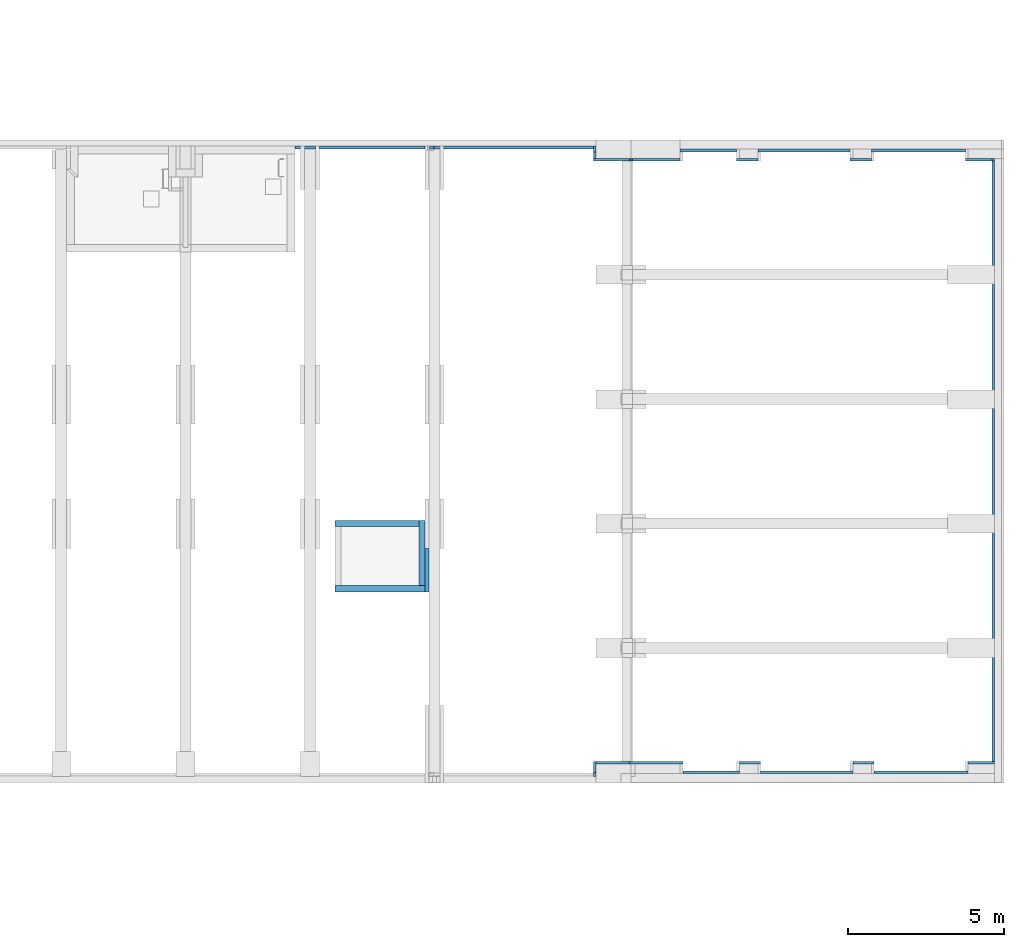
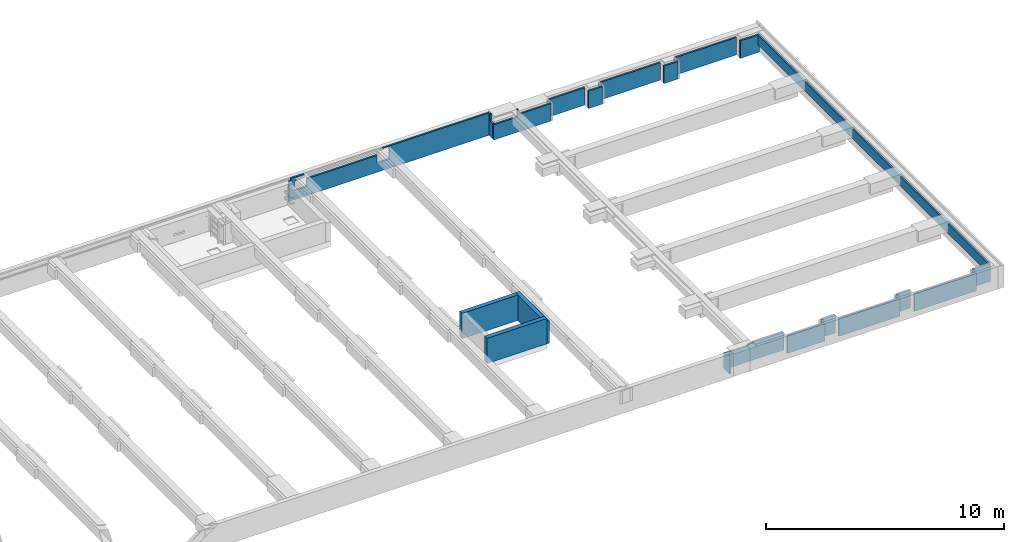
# One storey, part 14 of 17: 22 walls.
"""IFC2X3 building model written with IfcOpenShell, lengths in millimetres."""

from ifc_helpers import new_model, entity, si_unit, converted_unit, derived_unit, money_unit, direction, frame, origin_with_axes, place, context, subcontext, project, spatial, faceted_brep, material, type_object, element, save


model = new_model("IFC2X3")

# Units and contexts
model_context = context("Model", 3, precision=0.01, world=origin_with_axes(), true_north=direction((0.0, 1.0)))
body_context = subcontext(model_context, "Body", "Model", "MODEL_VIEW")
ifc_project = project(units=[si_unit("LENGTHUNIT", "METRE", prefix="MILLI"), si_unit("AREAUNIT", "SQUARE_METRE"), si_unit("VOLUMEUNIT", "CUBIC_METRE"), converted_unit("PLANEANGLEUNIT", "DEGREE", entity("IfcPlaneAngleMeasure", 0.0174532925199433), si_unit("PLANEANGLEUNIT", "RADIAN"), dimensions=[0, 0, 0, 0, 0, 0, 0]), money_unit("EUR"), converted_unit("TIMEUNIT", "Year", entity("IfcTimeMeasure", 31557600.0), si_unit("TIMEUNIT", "SECOND"), dimensions=[0, 0, 1, 0, 0, 0, 0]), si_unit("MASSUNIT", "GRAM", prefix="KILO"), si_unit("THERMODYNAMICTEMPERATUREUNIT", "DEGREE_CELSIUS"), si_unit("LUMINOUSINTENSITYUNIT", "LUMEN"), si_unit("ENERGYUNIT", "JOULE", prefix="MEGA"), derived_unit("THERMALCONDUCTANCEUNIT", [(si_unit("POWERUNIT", "WATT"), 1), (si_unit("LENGTHUNIT", "METRE"), -1), (si_unit("THERMODYNAMICTEMPERATUREUNIT", "KELVIN"), -1)]), derived_unit("SPECIFICHEATCAPACITYUNIT", [(si_unit("ENERGYUNIT", "JOULE"), 1), (si_unit("MASSUNIT", "GRAM", prefix="KILO"), -1), (si_unit("THERMODYNAMICTEMPERATUREUNIT", "KELVIN"), -1)]), derived_unit("MASSDENSITYUNIT", [(si_unit("MASSUNIT", "GRAM", prefix="KILO"), 1), (si_unit("VOLUMEUNIT", "CUBIC_METRE"), -1)])], contexts=[model_context])

# Site, building, storey
site_placement = place(None, origin_with_axes())
site = spatial("IfcSite", under=ifc_project, at=site_placement, Name="<site naam>", CompositionType="ELEMENT")
building_placement = place(site_placement, origin_with_axes())
building = spatial("IfcBuilding", under=site, at=building_placement, Name="<Naam gebouw>", CompositionType="ELEMENT")
storey_placement = place(building_placement, frame((0.0, 0.0, -1100.0), z_axis=(0.0, 0.0, 1.0), x_axis=(1.0, 0.0, 0.0)))
storey = spatial("IfcBuildingStorey", under=building, at=storey_placement, Name="-1 Fundering", CompositionType="ELEMENT", Elevation=-1100.0)

# Walls
ifc_material_1 = material(Name="ALG - ISOLATIE")
wall_type_1 = type_object("IfcWallType", Name="ALG - ISOLATIE 85", PredefinedType="NOTDEFINED")
wall_1_placement = place(storey_placement, frame((57199.92408730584, -135.0000144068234, -50.00000000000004), z_axis=(0.0, 0.0, 1.0), x_axis=(0.0001897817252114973, 0.9999999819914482, 0.0)))
element("IfcWall", 1, at=wall_1_placement, inside=storey, type_object=wall_type_1, material=ifc_material_1, Name="21_Binnenwand_ALG", context=body_context, shape_type="Brep", body=[
    faceted_brep([(134.9904842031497, 84.99999999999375, 900.0000000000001), (135.0066156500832, 0.0, 900.0000000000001), (135.0066156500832, 0.0, 815.0000000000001), (134.9904842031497, 84.99999999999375, 815.0000000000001), (10.00001458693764, 0.0, 900.0000000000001), (9.98388314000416, 84.99999999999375, 900.0000000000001), (10.00001458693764, 0.0, 1150.0), (0.0, 0.0, 1150.0), (0.0, 0.0, 0.0), (485.0000231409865, 0.0, 0.0), (485.0000231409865, 0.0, 815.0000000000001), (484.983891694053, 84.99999999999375, 815.0000000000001), (484.983891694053, 84.99999999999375, 0.0), (0.0, 84.99999999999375, 0.0), (0.0, 84.99999999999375, 1150.0), (9.98388314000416, 84.99999999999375, 1150.0)], [[[0, 1, 2, 3]], [[4, 1, 0, 5]], [[4, 6, 7, 8, 9, 10, 2, 1]], [[11, 3, 2, 10]], [[5, 0, 3, 11, 12, 13, 14, 15]], [[15, 6, 4, 5]], [[6, 15, 14, 7]], [[8, 7, 14, 13]], [[8, 13, 12, 9]], [[9, 12, 11, 10]]]),
])
wall_2_placement = place(storey_placement, frame((57200.00000000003, 265.0000000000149, -50.00000000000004), z_axis=(0.0, 0.0, 1.0), x_axis=(1.0, 0.0, 0.0)))
element("IfcWall", 2, at=wall_2_placement, inside=storey, type_object=wall_type_1, material=ifc_material_1, Name="21_Binnenwand_ALG", context=body_context, shape_type="Brep", body=[
    faceted_brep([(1067.782970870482, 85.00000000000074, 900.0000000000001), (1175.000000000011, 85.00000000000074, 900.0000000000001), (2785.000000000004, 85.00000000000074, 900.0000000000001), (2785.000000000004, 85.00000000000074, 0.0), (0.01613144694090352, 85.00000000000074, 0.0), (0.01613144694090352, 85.00000000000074, 815.0000000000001), (1067.782970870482, 85.00000000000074, 815.0000000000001), (1175.000000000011, 0.0, 900.0000000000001), (1067.782970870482, 0.0, 900.0000000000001), (2785.000000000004, 0.0, 900.0000000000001), (2785.000000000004, 0.0, 0.0), (0.0, 0.0, 0.0), (0.0, 0.0, 815.0000000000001), (1067.782970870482, 0.0, 815.0000000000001)], [[[0, 1, 2, 3, 4, 5, 6]], [[7, 1, 0, 8]], [[1, 7, 9, 2]], [[2, 9, 10, 3]], [[3, 10, 11, 4]], [[12, 5, 4, 11]], [[6, 5, 12, 13]], [[8, 0, 6, 13]], [[7, 8, 13, 12, 11, 10, 9]]]),
])
wall_3_placement = place(storey_placement, frame((59900.00000000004, -34.99999999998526, -50.00000000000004), z_axis=(0.0, 0.0, 1.0), x_axis=(1.0, 0.0, 0.0)))
element("IfcWall", 3, at=wall_3_placement, inside=storey, type_object=wall_type_1, material=ifc_material_1, Name="21_Binnenwand_ALG", context=body_context, shape_type="Brep", body=[
    faceted_brep([(1899.999983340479, 85.00000000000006, 0.0), (85.00000000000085, 85.00000000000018, 0.0), (85.00000000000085, 85.00000000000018, 900.0000000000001), (1899.999983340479, 85.00000000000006, 900.0000000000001), (85.00000000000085, 0.0, 0.0), (1899.999976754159, 0.0, 0.0), (85.00000000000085, 0.0, 900.0000000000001), (1899.999976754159, 0.0, 900.0000000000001)], [[[0, 1, 2, 3]], [[4, 1, 0, 5]], [[1, 4, 6, 2]], [[2, 6, 7, 3]], [[5, 0, 3, 7]], [[4, 5, 7, 6]]]),
])
wall_4_placement = place(storey_placement, frame((61800.00000000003, 265.0000000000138, -50.00000000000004), z_axis=(0.0, 0.0, 1.0), x_axis=(1.0, 0.0, 0.0)))
element("IfcWall", 4, at=wall_4_placement, inside=storey, type_object=wall_type_1, material=ifc_material_1, Name="21_Binnenwand_ALG", context=body_context, shape_type="Brep", body=[
    faceted_brep([(684.999978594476, 85.00000000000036, 0.0), (6.586319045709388e-06, 85.00000000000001, 0.0), (6.586319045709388e-06, 85.00000000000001, 900.0000000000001), (684.999978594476, 85.00000000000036, 900.0000000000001), (0.0, 0.0, 0.0), (685.0000000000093, 0.0, 0.0), (0.0, 0.0, 900.0000000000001), (685.0000000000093, 0.0, 900.0000000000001)], [[[0, 1, 2, 3]], [[4, 1, 0, 5]], [[1, 4, 6, 2]], [[2, 6, 7, 3]], [[5, 0, 3, 7]], [[4, 5, 7, 6]]]),
])
wall_5_placement = place(storey_placement, frame((62400.00007554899, -34.9999999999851, -50.00000000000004), z_axis=(0.0, 0.0, 1.0), x_axis=(1.0, -9.233843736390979e-09, 0.0)))
element("IfcWall", 5, at=wall_5_placement, inside=storey, type_object=wall_type_1, material=ifc_material_1, Name="21_Binnenwand_ALG", context=body_context, shape_type="Brep", body=[
    faceted_brep([(3049.999923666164, 85.00002816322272, 0.0), (84.9999778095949, 85.00000078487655, 0.0), (84.9999778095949, 85.00000078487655, 900.0000000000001), (3049.999923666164, 85.00002816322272, 900.0000000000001), (85.00000000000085, 7.84875879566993e-07, 0.0), (3049.999924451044, 2.81632236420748e-05, 0.0), (85.00000000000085, 7.84875879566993e-07, 900.0000000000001), (3049.999924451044, 2.816322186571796e-05, 900.0000000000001)], [[[0, 1, 2, 3]], [[4, 1, 0, 5]], [[1, 4, 6, 2]], [[2, 6, 7, 3]], [[5, 0, 3, 7]], [[4, 5, 7, 6]]]),
])
wall_6_placement = place(storey_placement, frame((65450.00000000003, 265.000000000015, -50.00000000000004), z_axis=(0.0, 0.0, 1.0), x_axis=(1.0, 0.0, 0.0)))
element("IfcWall", 6, at=wall_6_placement, inside=storey, type_object=wall_type_1, material=ifc_material_1, Name="21_Binnenwand_ALG", context=body_context, shape_type="Brep", body=[
    faceted_brep([(685.0000000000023, 85.00000000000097, 0.0), (0.0, 85.00000000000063, 0.0), (0.0, 85.00000000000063, 900.0000000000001), (685.0000000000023, 85.00000000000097, 900.0000000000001), (0.0, 0.0, 0.0), (685.0000000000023, 0.0, 0.0), (0.0, 0.0, 900.0000000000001), (685.0000000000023, 0.0, 900.0000000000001)], [[[0, 1, 2, 3]], [[4, 1, 0, 5]], [[1, 4, 6, 2]], [[2, 6, 7, 3]], [[5, 0, 3, 7]], [[4, 5, 7, 6]]]),
])
wall_7_placement = place(storey_placement, frame((66050.00000000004, -35.00002816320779, -50.00000000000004), z_axis=(0.0, 0.0, 1.0), x_axis=(1.0, 9.084910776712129e-09, 0.0)))
element("IfcWall", 7, at=wall_7_placement, inside=storey, type_object=wall_type_1, material=ifc_material_1, Name="21_Binnenwand_ALG", context=body_context, shape_type="Brep", body=[
    faceted_brep([(3099.999977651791, 84.99997183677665, 0.0), (85.00000077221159, 84.99999922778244, 0.0), (85.00000077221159, 84.99999922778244, 900.0000000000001), (3099.999977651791, 84.99997183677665, 900.0000000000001), (84.99999999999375, -7.722166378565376e-07, 0.0), (3099.999967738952, -2.816322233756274e-05, 0.0), (84.99999999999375, 2.73910044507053e-05, 900.0000000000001), (3099.999967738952, 0.0, 900.0000000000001)], [[[0, 1, 2, 3]], [[4, 1, 0, 5]], [[1, 4, 6, 2]], [[2, 6, 7, 3]], [[5, 0, 3, 7]], [[4, 5, 7, 6]]]),
])
wall_8_placement = place(storey_placement, frame((69150.00000000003, 265.0000000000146, -50.00000000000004), z_axis=(0.0, 0.0, 1.0), x_axis=(1.0, 0.0, 0.0)))
element("IfcWall", 8, at=wall_8_placement, inside=storey, type_object=wall_type_1, material=ifc_material_1, Name="21_Binnenwand_ALG", context=body_context, shape_type="Brep", body=[
    faceted_brep([(859.9999999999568, 84.99999999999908, 0.0), (9.140634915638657e-06, 84.9999999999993, 0.0), (9.140634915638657e-06, 84.9999999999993, 900.0000000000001), (859.999999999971, 84.99999999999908, 900.0000000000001), (859.9999999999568, 84.99999999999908, 399.9999928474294), (859.9999999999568, 0.0, 0.0), (0.0, 0.0, 0.0), (0.0, 0.0, 900.0000000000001), (859.999999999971, 0.0, 900.0000000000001), (859.9999999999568, 0.0, 399.9999928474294)], [[[0, 1, 2, 3, 4]], [[5, 6, 1, 0]], [[1, 6, 7, 2]], [[2, 7, 8, 3]], [[9, 4, 3, 8]], [[4, 9, 5, 0]], [[5, 9, 8, 7, 6]]]),
])
wall_9_placement = place(storey_placement, frame((70009.99999999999, 265.0000000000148, 349.9999928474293), z_axis=(0.0, 0.0, 1.0), x_axis=(0.0, 1.0, 0.0)))
element("IfcWall", 9, at=wall_9_placement, inside=storey, type_object=wall_type_1, material=ifc_material_1, Name="21_Binnenwand_ALG", context=body_context, shape_type="Brep", body=[
    faceted_brep([(19470.0, 0.0, 0.0), (19470.0, 84.99999999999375, 0.0), (19470.0, 84.99999999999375, 500.0000071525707), (19470.0, 0.0, 500.0000071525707), (85.00000000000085, 0.0, 0.0), (85.00000000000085, 84.99999999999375, 0.0), (85.00000000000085, 84.99999999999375, 500.0000071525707), (85.00000000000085, 0.0, 500.0000071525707)], [[[0, 1, 2, 3]], [[4, 5, 1, 0]], [[1, 5, 6, 2]], [[2, 6, 7, 3]], [[4, 0, 3, 7]], [[5, 4, 7, 6]]]),
])
wall_10_placement = place(storey_placement, frame((70009.99999999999, 19735.00000000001, -50.00000000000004), z_axis=(0.0, 0.0, 1.0), x_axis=(-1.0, 0.0, 0.0)))
element("IfcWall", 10, at=wall_10_placement, inside=storey, type_object=wall_type_1, material=ifc_material_1, Name="21_Binnenwand_ALG", context=body_context, shape_type="Brep", body=[
    faceted_brep([(0.0, 0.0, 0.0), (944.9999999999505, 0.0, 0.0), (944.9999999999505, 0.0, 900.0000000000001), (84.99999999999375, 0.0, 900.0000000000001), (84.99999999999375, 0.0, 399.9999928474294), (0.0, 0.0, 399.9999928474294), (0.0, 85.00000000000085, 0.0), (944.9999956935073, 85.00000000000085, 0.0), (944.9999956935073, 85.00000000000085, 900.0000000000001), (84.99999999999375, 85.00000000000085, 900.0000000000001), (84.99999999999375, 85.00000000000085, 399.9999928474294), (0.0, 85.00000000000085, 399.9999928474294)], [[[0, 1, 2, 3, 4, 5]], [[0, 6, 7, 1]], [[1, 7, 8, 2]], [[2, 8, 9, 3]], [[10, 4, 3, 9]], [[5, 4, 10, 11]], [[11, 6, 0, 5]], [[11, 10, 9, 8, 7, 6]]]),
])
wall_11_placement = place(storey_placement, frame((69149.99998480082, 20035.00000000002, -50.00000000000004), z_axis=(0.0, 0.0, 1.0), x_axis=(-1.0, 0.0, 0.0)))
element("IfcWall", 11, at=wall_11_placement, inside=storey, type_object=wall_type_1, material=ifc_material_1, Name="21_Binnenwand_ALG", context=body_context, shape_type="Brep", body=[
    faceted_brep([(84.99999999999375, 0.0, 0.0), (3099.999864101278, 0.0, 0.0), (3099.999864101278, 0.0, 900.0000000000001), (84.99999999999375, 0.0, 900.0000000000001), (84.99999569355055, 85.00000000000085, 0.0), (3099.999898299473, 85.00000000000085, 0.0), (3099.999898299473, 85.00000000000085, 900.0000000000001), (84.99999569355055, 85.00000000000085, 900.0000000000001)], [[[0, 1, 2, 3]], [[0, 4, 5, 1]], [[1, 5, 6, 2]], [[2, 6, 7, 3]], [[4, 0, 3, 7]], [[5, 4, 7, 6]]]),
])
wall_12_placement = place(storey_placement, frame((66050.00000000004, 19735.00000000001, -50.00000000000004), z_axis=(0.0, 0.0, 1.0), x_axis=(-1.0, 0.0, 0.0)))
element("IfcWall", 12, at=wall_12_placement, inside=storey, type_object=wall_type_1, material=ifc_material_1, Name="21_Binnenwand_ALG", context=body_context, shape_type="Brep", body=[
    faceted_brep([(0.0, 0.0, 0.0), (685.0000000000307, 0.0, 0.0), (685.0000000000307, 0.0, 900.0000000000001), (0.0, 0.0, 900.0000000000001), (3.419819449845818e-05, 85.00000000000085, 0.0), (685.0000501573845, 85.00000000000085, 0.0), (685.0000501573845, 85.00000000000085, 900.0000000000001), (3.419819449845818e-05, 85.00000000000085, 900.0000000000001)], [[[0, 1, 2, 3]], [[0, 4, 5, 1]], [[1, 5, 6, 2]], [[2, 6, 7, 3]], [[4, 0, 3, 7]], [[5, 4, 7, 6]]]),
])
wall_13_placement = place(storey_placement, frame((65450.00017702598, 20035.00000000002, -50.00000000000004), z_axis=(0.0, 0.0, 1.0), x_axis=(-1.0, -9.233845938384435e-09, 0.0)))
element("IfcWall", 13, at=wall_13_placement, inside=storey, type_object=wall_type_1, material=ifc_material_1, Name="21_Binnenwand_ALG", context=body_context, shape_type="Brep", body=[
    faceted_brep([(85.00000000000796, -7.848761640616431e-07, 0.0), (3050.00017702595, -2.816323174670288e-05, 0.0), (3050.00017702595, -2.81632104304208e-05, 900.0000000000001), (85.00000000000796, -7.848619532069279e-07, 900.0000000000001), (85.0000509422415, 84.99999921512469, 0.0), (3050.00017781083, 84.9999718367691, 0.0), (3050.00017781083, 84.9999718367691, 900.0000000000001), (85.0000509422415, 84.99999921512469, 900.0000000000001)], [[[0, 1, 2, 3]], [[0, 4, 5, 1]], [[1, 5, 6, 2]], [[2, 6, 7, 3]], [[4, 0, 3, 7]], [[5, 4, 7, 6]]]),
])
wall_14_placement = place(storey_placement, frame((62400.00000000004, 19735.00000000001, -50.00000000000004), z_axis=(0.0, 0.0, 1.0), x_axis=(-1.0, 0.0, 0.0)))
element("IfcWall", 14, at=wall_14_placement, inside=storey, type_object=wall_type_1, material=ifc_material_1, Name="21_Binnenwand_ALG", context=body_context, shape_type="Brep", body=[
    faceted_brep([(0.0, 0.0, 0.0), (685.0000000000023, 0.0, 0.0), (685.0000000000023, 0.0, 900.0000000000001), (0.0, 0.0, 900.0000000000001), (0.0, 85.00000000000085, 0.0), (685.0000000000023, 85.00000000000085, 0.0), (685.0000000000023, 85.00000000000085, 900.0000000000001), (0.0, 85.00000000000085, 900.0000000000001)], [[[0, 1, 2, 3]], [[0, 4, 5, 1]], [[1, 5, 6, 2]], [[2, 6, 7, 3]], [[4, 0, 3, 7]], [[5, 4, 7, 6]]]),
])
wall_15_placement = place(storey_placement, frame((61800.00000000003, 20034.99997183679, -50.00000000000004), z_axis=(0.0, 0.0, 1.0), x_axis=(-0.9999999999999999, 1.482275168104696e-08, 0.0)))
element("IfcWall", 15, at=wall_15_placement, inside=storey, type_object=wall_type_1, material=ifc_material_1, Name="21_Binnenwand_ALG", context=body_context, shape_type="Brep", body=[
    faceted_brep([(85.00000000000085, 1.25993437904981e-06, 0.0), (1899.999999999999, 2.81632281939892e-05, 0.0), (1899.999999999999, 0.0, 900.0000000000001), (85.00000000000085, -2.690327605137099e-05, 900.0000000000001), (84.99999874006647, 85.00000125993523, 0.0), (1899.999998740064, 85.00002816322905, 0.0), (1899.999998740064, 85.00002816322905, 900.0000000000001), (84.99999874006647, 85.00000125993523, 900.0000000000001)], [[[0, 1, 2, 3]], [[0, 4, 5, 1]], [[1, 5, 6, 2]], [[2, 6, 7, 3]], [[4, 0, 3, 7]], [[5, 4, 7, 6]]]),
])
wall_16_placement = place(storey_placement, frame((59900.00000000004, 19735.00000000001, -50.00000000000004), z_axis=(0.0, 0.0, 1.0), x_axis=(-1.0, 0.0, 0.0)))
element("IfcWall", 16, at=wall_16_placement, inside=storey, type_object=wall_type_1, material=ifc_material_1, Name="21_Binnenwand_ALG", context=body_context, shape_type="Brep", body=[
    faceted_brep([(1632.217029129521, 0.0, 870.0000000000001), (1632.217029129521, 0.0, 1150.0), (1582.217155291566, 0.0, 1150.0), (1582.217155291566, 0.0, 1000.0), (1524.999999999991, 0.0, 1000.0), (1524.999999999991, 0.0, 900.0000000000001), (0.0, 0.0, 900.0000000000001), (0.0, 0.0, 0.0), (2785.000000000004, 0.0, 0.0), (2785.000000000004, 0.0, 785.0000000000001), (1632.217029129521, 0.0, 785.0000000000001), (1632.217029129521, 85.00000000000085, 1150.0), (1632.217029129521, 85.00000000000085, 870.0000000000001), (1582.217155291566, 85.00000000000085, 1150.0), (1582.217155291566, 84.9999999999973, 1000.0), (1524.999999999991, 85.00000000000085, 1000.0), (1524.999999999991, 85.00000000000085, 900.0000000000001), (0.0, 85.00000000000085, 900.0000000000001), (0.0, 85.00000000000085, 0.0), (2785.000000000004, 85.00000000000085, 0.0), (2785.000000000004, 85.00000000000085, 785.0000000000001), (1632.217029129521, 85.00000000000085, 785.0000000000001)], [[[0, 1, 2, 3, 4, 5, 6, 7, 8, 9, 10]], [[11, 1, 0, 12]], [[1, 11, 13, 2]], [[13, 14, 3, 2]], [[3, 14, 15, 4]], [[16, 5, 4, 15]], [[17, 6, 5, 16]], [[6, 17, 18, 7]], [[19, 8, 7, 18]], [[20, 9, 8, 19]], [[10, 9, 20, 21]], [[12, 0, 10, 21]], [[11, 12, 21, 20, 19, 18, 17, 16, 15, 14, 13]]]),
])
wall_17_placement = place(storey_placement, frame((57200.00000000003, 19735.00000000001, -50.00000000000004), z_axis=(0.0, 0.0, 1.0), x_axis=(0.0, 1.0, 0.0)))
element("IfcWall", 17, at=wall_17_placement, inside=storey, type_object=wall_type_1, material=ifc_material_1, Name="21_Binnenwand_ALG", context=body_context, shape_type="Brep", body=[
    faceted_brep([(214.954684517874, 85.00000000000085, 1150.0), (214.954684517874, 0.0, 1150.0), (399.9999999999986, 0.0, 1150.0), (399.9999999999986, 85.00000000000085, 1150.0), (214.954684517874, 0.0, 870.0000000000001), (214.954684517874, 85.00000000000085, 870.0000000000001), (265.0065257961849, 0.0, 870.0000000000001), (265.0065257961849, 0.0, 785.0000000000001), (0.0, 0.0, 785.0000000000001), (0.0, 0.0, 0.0), (399.9999999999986, 0.0, 0.0), (399.9999999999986, 85.00000000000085, 0.0), (0.0, 85.00000000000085, 0.0), (0.0, 85.00000000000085, 785.0000000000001), (265.0065257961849, 85.00000000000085, 785.0000000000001), (265.0065257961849, 85.00000000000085, 870.0000000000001)], [[[0, 1, 2, 3]], [[4, 1, 0, 5]], [[1, 4, 6, 7, 8, 9, 10, 2]], [[3, 2, 10, 11]], [[5, 0, 3, 11, 12, 13, 14, 15]], [[4, 5, 15, 6]], [[15, 14, 7, 6]], [[14, 13, 8, 7]], [[12, 9, 8, 13]], [[9, 12, 11, 10]]]),
])
wall_18_placement = place(storey_placement, frame((57200.00000000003, 20135.00000000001, -50.00000000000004), z_axis=(0.0, 0.0, 1.0), x_axis=(-1.0, 0.0, 0.0)))
element("IfcWall", 18, at=wall_18_placement, inside=storey, type_object=wall_type_1, material=ifc_material_1, Name="21_Binnenwand_ALG", context=body_context, shape_type="Brep", body=[
    faceted_brep([(9024.999999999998, 85.00000000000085, 1100.0), (9024.999999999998, 0.0, 1100.0), (9500.0, 0.0, 1100.0), (9500.0, 85.00000000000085, 1100.0), (9024.999999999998, 0.0, 950.0000000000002), (9024.999999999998, 85.0000000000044, 950.0000000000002), (5221.000061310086, 0.0, 1120.0), (5221.000061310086, 0.0, 1150.0), (85.00000000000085, 0.0, 1150.0), (85.00000000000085, 0.0, 0.0), (9784.115610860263, 0.0, 0.0), (9784.115610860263, 1.472790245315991e-05, 1030.0), (9687.11561086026, 1.472790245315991e-05, 1030.0), (9687.11561086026, 1.472790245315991e-05, 1150.0), (9024.999999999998, 0.0, 1150.0), (9024.999999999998, 0.0, 1120.0), (9500.0, 0.0, 1120.0), (9500.0, 0.0, 950.0000000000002), (9500.0, 0.0, 470.0), (8900.000000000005, 0.0, 470.0), (8900.000000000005, 0.0, 870.0000000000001), (5500.0, 0.0, 870.0000000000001), (5500.0, 0.0, 470.0), (4900.000000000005, 0.0, 470.0), (4900.000000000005, 0.0, 1120.0), (9500.0, 85.00000000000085, 1120.0), (5221.000061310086, 85.00000000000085, 1150.0), (5221.000061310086, 85.00000000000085, 1120.0), (4900.000000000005, 85.00000000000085, 1120.0), (4900.000000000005, 85.00000000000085, 470.0), (5500.0, 85.00000000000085, 470.0), (5500.0, 85.00000000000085, 870.0000000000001), (8900.000000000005, 85.00000000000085, 870.0000000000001), (8900.000000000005, 85.00000000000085, 470.0), (9500.0, 85.00000000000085, 470.0), (9500.0, 85.00000000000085, 950.0000000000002), (9024.999999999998, 85.00000000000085, 1120.0), (9024.999999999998, 85.00000000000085, 1150.0), (9687.11561086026, 85.00000000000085, 1150.0), (9687.11561086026, 85.00000000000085, 1030.0), (9784.115610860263, 85.00000000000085, 1030.0), (9784.115610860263, 85.00000000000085, 0.0), (85.00000000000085, 85.00000000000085, 0.0), (85.00000000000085, 85.00000000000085, 1150.0)], [[[0, 1, 2, 3]], [[4, 1, 0, 5]], [[6, 7, 8, 9, 10, 11, 12, 13, 14, 15, 16, 2, 1, 4, 17, 18, 19, 20, 21, 22, 23, 24]], [[3, 2, 16, 25]], [[26, 27, 28, 29, 30, 31, 32, 33, 34, 35, 5, 0, 3, 25, 36, 37, 38, 39, 40, 41, 42, 43]], [[4, 5, 35, 17]], [[26, 7, 6, 27]], [[7, 26, 43, 8]], [[9, 8, 43, 42]], [[10, 9, 42, 41]], [[10, 41, 40, 11]], [[40, 39, 12, 11]], [[12, 39, 38, 13]], [[37, 14, 13, 38]], [[15, 14, 37, 36]], [[15, 36, 25, 16]], [[34, 18, 17, 35]], [[33, 19, 18, 34]], [[33, 32, 20, 19]], [[21, 20, 32, 31]], [[21, 31, 30, 22]], [[23, 22, 30, 29]], [[23, 29, 28, 24]], [[27, 6, 24, 28]]]),
])
ifc_material_2 = material(Name="beton")
wall_type_2 = type_object("IfcWallType", Name="beton 200", PredefinedType="NOTDEFINED")
wall_19_placement = place(storey_placement, frame((49000.0000000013, 6004.99999853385, -199.9999999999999), z_axis=(0.0, 0.0, 1.0), x_axis=(1.0, 0.0, 0.0)))
element("IfcWall", 19, at=wall_19_placement, inside=storey, type_object=wall_type_2, material=ifc_material_2, Name="22_Binnenwand_beton", context=body_context, shape_type="Brep", body=[
    faceted_brep([(2699.999999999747, 0.0, 0.0), (2699.999999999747, -200.0000000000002, 0.0), (-200.0000000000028, -200.0000000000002, 0.0), (-200.0000000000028, 0.0, 0.0), (2699.999999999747, 0.0, 1300.0), (2699.999999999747, -200.0000000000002, 1300.0), (-200.0000000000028, -200.0000000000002, 1300.0), (-200.0000000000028, 0.0, 1300.0)], [[[0, 1, 2, 3]], [[1, 0, 4, 5]], [[1, 5, 6, 2]], [[7, 3, 2, 6]], [[4, 0, 3, 7]], [[5, 4, 7, 6]]]),
])
wall_20_placement = place(storey_placement, frame((51700.00000000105, 6004.99999853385, -199.9999999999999), z_axis=(0.0, 0.0, 1.0), x_axis=(0.0, 1.0, 0.0)))
element("IfcWall", 20, at=wall_20_placement, inside=storey, type_object=wall_type_2, material=ifc_material_2, Name="22_Binnenwand_beton", context=body_context, shape_type="Brep", body=[
    faceted_brep([(2099.999999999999, 200.0000000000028, 0.0), (2099.999999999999, 0.0, 0.0), (0.0, 0.0, 0.0), (0.0, 200.0000000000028, 0.0), (2099.999999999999, 200.0000000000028, 1300.0), (2099.999999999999, 0.0, 1300.0), (0.0, 0.0, 1300.0), (0.0, 200.0000000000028, 1300.0)], [[[0, 1, 2, 3]], [[1, 0, 4, 5]], [[1, 5, 6, 2]], [[7, 3, 2, 6]], [[4, 0, 3, 7]], [[5, 4, 7, 6]]]),
])
wall_21_placement = place(storey_placement, frame((51700.00000000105, 7904.999998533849, -199.9999999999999), z_axis=(0.0, 0.0, 1.0), x_axis=(-1.0, 0.0, 0.0)))
element("IfcWall", 21, at=wall_21_placement, inside=storey, type_object=wall_type_2, material=ifc_material_2, Name="22_Binnenwand_beton", context=body_context, shape_type="Brep", body=[
    faceted_brep([(200.0000000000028, 0.0, 0.0), (2899.99999999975, 0.0, 0.0), (2899.99999999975, -200.0000000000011, 0.0), (200.0000000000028, -199.9999999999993, 0.0), (200.0000000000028, 0.0, 1300.0), (2899.99999999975, 0.0, 1300.0), (2899.99999999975, -199.9999999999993, 1300.0), (200.0000000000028, -199.9999999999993, 1300.0)], [[[0, 1, 2, 3]], [[4, 5, 1, 0]], [[6, 2, 1, 5]], [[3, 2, 6, 7]], [[7, 4, 0, 3]], [[7, 6, 5, 4]]]),
])
wall_type_3 = type_object("IfcWallType", Name="beton 125", PredefinedType="NOTDEFINED")
wall_22_placement = place(storey_placement, frame((51825.00000000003, 5804.99999853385, -199.9999999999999), z_axis=(0.0, 0.0, 1.0), x_axis=(0.0, 1.0, 0.0)))
element("IfcWall", 22, at=wall_22_placement, inside=storey, type_object=wall_type_3, material=ifc_material_2, Name="22_Binnenwand_beton", context=body_context, shape_type="Brep", body=[
    faceted_brep([(0.0, 125.0, 0.0), (1389.453898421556, 125.0, 0.0), (1389.453898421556, 0.0, 0.0), (0.0, 0.0, 0.0), (0.0, 125.0, 1150.0), (1389.453898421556, 125.0, 1150.0), (1389.453898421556, 0.0, 1150.0), (0.0, 0.0, 1150.0)], [[[0, 1, 2, 3]], [[4, 5, 1, 0]], [[2, 1, 5, 6]], [[3, 2, 6, 7]], [[4, 0, 3, 7]], [[7, 6, 5, 4]]]),
])

save(model, "model.ifc")
